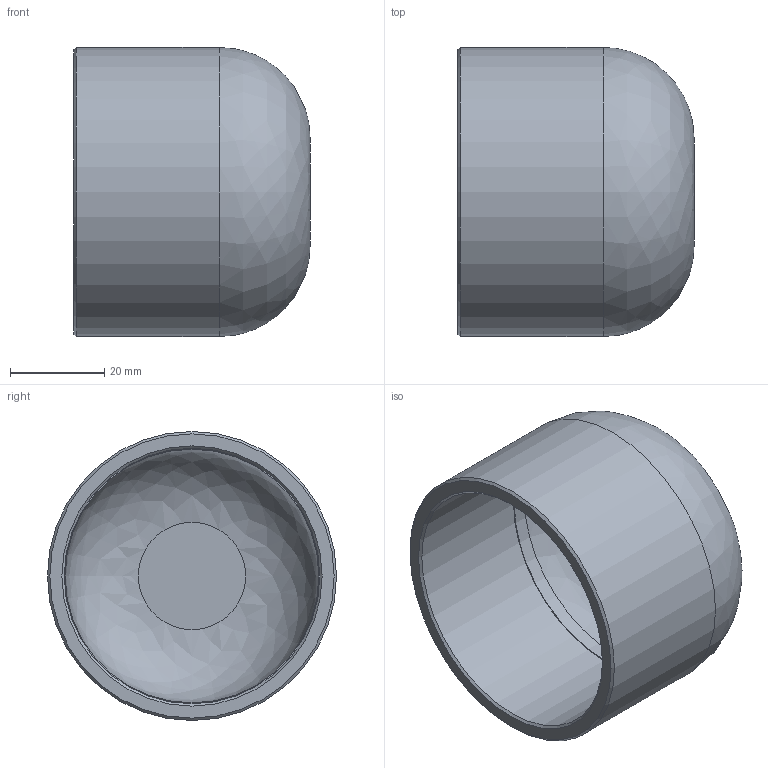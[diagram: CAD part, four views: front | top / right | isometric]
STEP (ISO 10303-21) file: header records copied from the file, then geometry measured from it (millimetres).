
FILE_DESCRIPTION((''),'2;1');
FILE_NAME('G:\SANHA-Ternat\Technik\Management\Bouwmaten + markeringen\z-maattekeningen 3D\29000s\29301218_3d.stp','2017-08-04T13:34:49',('vdvijverd'),(''),'Autodesk Inventor 2009','Autodesk Inventor 2009','');
FILE_SCHEMA(('AUTOMOTIVE_DESIGN { 1 0 10303 214 1 1 1 1 }'));
Length unit declared in the file: millimetre
Products named in the file (1): 29301218_3d
Bounding box: 50.05 x 61.26 x 61.26 mm (x, y, z)
Volume: 35391.9 mm3; surface area: 20320.5 mm2
Topology: 1 solids, 1 shells, 11 faces, 17 edges, 10 vertices
Faces by surface type: plane 4, cylinder 3, cone 2, bspline 2
Full cylindrical faces by diameter (mm): 53.755 x1, 54.155 x1, 61.255 x1
Entity records: 320 total; most frequent: CARTESIAN_POINT 120, DIRECTION 40, AXIS2_PLACEMENT_3D 20, ORIENTED_EDGE 20, EDGE_LOOP 20, FACE_OUTER_BOUND 11, ADVANCED_FACE 11, VERTEX_POINT 10
